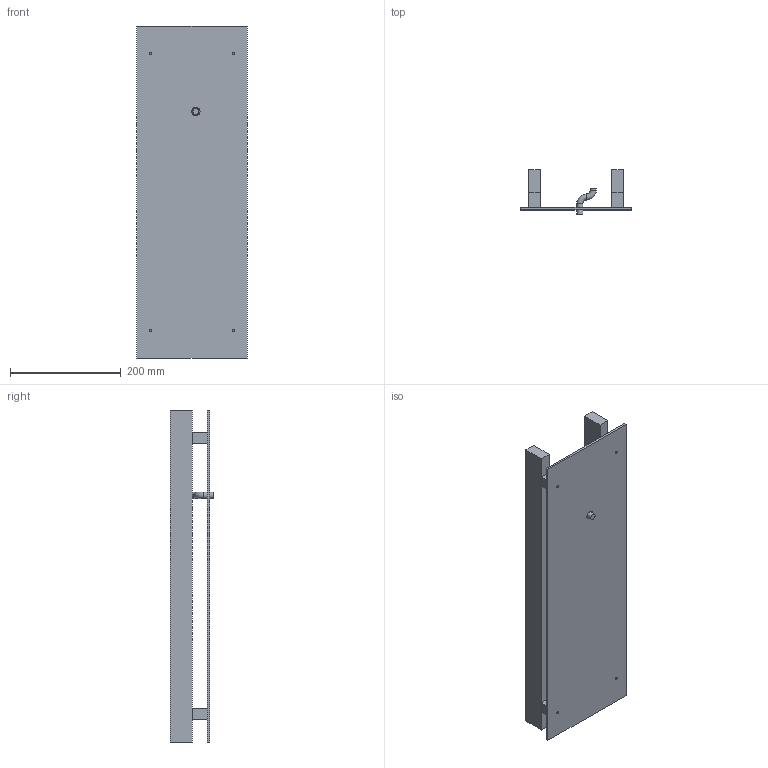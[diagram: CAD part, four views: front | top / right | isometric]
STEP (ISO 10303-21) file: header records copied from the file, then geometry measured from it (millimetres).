
FILE_DESCRIPTION(('Open CASCADE Model'),'2;1');
FILE_NAME('Open CASCADE Shape Model','2026-11-14T16:01:39',('Author'),( 'Open CASCADE'),'Open CASCADE STEP processor 7.9','Open CASCADE 7.9' ,'Unknown');
FILE_SCHEMA(('AUTOMOTIVE_DESIGN { 1 0 10303 214 1 1 1 1 }'));
Length unit declared in the file: millimetre
Products named in the file (9): Open CASCADE STEP translator 7.9 99; Open CASCADE STEP translator 7.9 99.1; Open CASCADE STEP translator 7.9 99.2; Open CASCADE STEP translator 7.9 99.3; Open CASCADE STEP translator 7.9 99.4; Open CASCADE STEP translator 7.9 99.5; Open CASCADE STEP translator 7.9 99.6; Open CASCADE STEP translator 7.9 99.7; Open CASCADE STEP translator 7.9 99.8
Assembly tree (8 placements, depth 2):
  Open CASCADE STEP translator 7.9 99
    Open CASCADE STEP translator 7.9 99.1
    Open CASCADE STEP translator 7.9 99.2
    Open CASCADE STEP translator 7.9 99.3
    Open CASCADE STEP translator 7.9 99.4
    Open CASCADE STEP translator 7.9 99.5
    Open CASCADE STEP translator 7.9 99.6
    Open CASCADE STEP translator 7.9 99.7
    Open CASCADE STEP translator 7.9 99.8
Bounding box: 200 x 79.5 x 600 mm (x, y, z)
Volume: 1486943.6 mm3; surface area: 409208.1 mm2
Topology: 8 solids, 8 shells, 57 faces, 120 edges, 79 vertices
Faces by surface type: plane 44, cylinder 11, torus 2
Full cylindrical faces by diameter (mm): 4.5 x8, 11 x2, 15 x1
Entity records: 3244 total; most frequent: CARTESIAN_POINT 512, DIRECTION 510, LINE 308, VECTOR 308, ORIENTED_EDGE 240, PCURVE 240, DEFINITIONAL_REPRESENTATION 240, EDGE_CURVE 120
